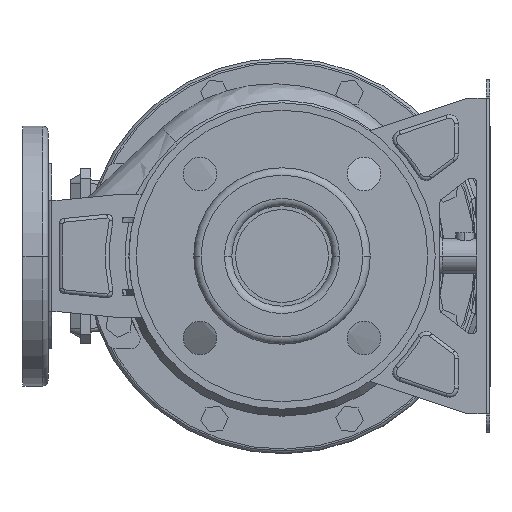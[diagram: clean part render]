
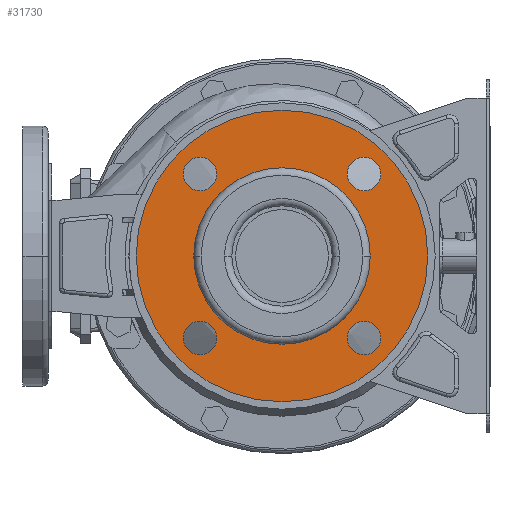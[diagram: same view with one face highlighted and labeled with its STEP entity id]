
A CAD part, front view. The second image highlights one B-rep face of the part: STEP entity #31730.
In plain terms, the highlighted planar face has unit normal (0, -1, 0) as drawn and (-1, 0, 0) by its records, which use the part's own axes.
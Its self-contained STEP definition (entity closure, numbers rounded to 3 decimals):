
#31063=CARTESIAN_POINT('',(12.,0.,0.));
#31064=DIRECTION('',(-1.,0.,0.));
#31065=DIRECTION('',(0.,1.,0.));
#31066=AXIS2_PLACEMENT_3D('',#31063,#31064,#31065);
#31071=CARTESIAN_POINT('',(12.,0.,0.));
#31072=DIRECTION('',(1.,0.,0.));
#31073=DIRECTION('',(0.,1.,0.));
#31074=AXIS2_PLACEMENT_3D('',#31071,#31072,#31073);
#31079=CARTESIAN_POINT('',(12.,-44.194,44.194));
#31080=DIRECTION('',(1.,0.,0.));
#31081=DIRECTION('',(0.,1.,0.));
#31082=AXIS2_PLACEMENT_3D('',#31079,#31080,#31081);
#31087=CARTESIAN_POINT('',(12.,-44.194,44.194));
#31088=DIRECTION('',(1.,0.,0.));
#31089=DIRECTION('',(0.,-1.,0.));
#31090=AXIS2_PLACEMENT_3D('',#31087,#31088,#31089);
#31095=CARTESIAN_POINT('',(12.,-44.194,-44.194));
#31096=DIRECTION('',(1.,0.,0.));
#31097=DIRECTION('',(0.,0.,1.));
#31098=AXIS2_PLACEMENT_3D('',#31095,#31096,#31097);
#31103=CARTESIAN_POINT('',(12.,-44.194,-44.194));
#31104=DIRECTION('',(1.,0.,0.));
#31105=DIRECTION('',(0.,0.,-1.));
#31106=AXIS2_PLACEMENT_3D('',#31103,#31104,#31105);
#31111=CARTESIAN_POINT('',(12.,44.194,-44.194));
#31112=DIRECTION('',(1.,0.,0.));
#31113=DIRECTION('',(0.,-1.,0.));
#31114=AXIS2_PLACEMENT_3D('',#31111,#31112,#31113);
#31119=CARTESIAN_POINT('',(12.,44.194,-44.194));
#31120=DIRECTION('',(1.,0.,0.));
#31121=DIRECTION('',(0.,1.,0.));
#31122=AXIS2_PLACEMENT_3D('',#31119,#31120,#31121);
#31127=CARTESIAN_POINT('',(12.,44.194,44.194));
#31128=DIRECTION('',(1.,0.,0.));
#31129=DIRECTION('',(0.,0.,-1.));
#31130=AXIS2_PLACEMENT_3D('',#31127,#31128,#31129);
#31135=CARTESIAN_POINT('',(12.,44.194,44.194));
#31136=DIRECTION('',(1.,0.,0.));
#31137=DIRECTION('',(0.,0.,1.));
#31138=AXIS2_PLACEMENT_3D('',#31135,#31136,#31137);
#31143=CARTESIAN_POINT('',(12.,0.,0.));
#31144=DIRECTION('',(1.,0.,0.));
#31145=DIRECTION('',(0.,1.,0.));
#31146=AXIS2_PLACEMENT_3D('',#31143,#31144,#31145);
#31165=CARTESIAN_POINT('',(12.,0.,0.));
#31166=DIRECTION('',(-1.,0.,0.));
#31167=DIRECTION('',(0.,1.,0.));
#31168=AXIS2_PLACEMENT_3D('',#31165,#31166,#31167);
#31330=CARTESIAN_POINT('',(12.,78.5,0.));
#31332=VERTEX_POINT('',#31330);
#31333=CARTESIAN_POINT('',(12.,47.5,0.));
#31335=VERTEX_POINT('',#31333);
#31362=CARTESIAN_POINT('',(12.,-78.5,0.));
#31364=VERTEX_POINT('',#31362);
#31365=CARTESIAN_POINT('',(12.,-47.5,0.));
#31367=VERTEX_POINT('',#31365);
#31377=CARTESIAN_POINT('',(12.,-35.194,44.194));
#31378=CARTESIAN_POINT('',(12.,-53.194,44.194));
#31379=VERTEX_POINT('',#31377);
#31380=VERTEX_POINT('',#31378);
#31385=CARTESIAN_POINT('',(12.,-44.194,-35.194));
#31386=CARTESIAN_POINT('',(12.,-44.194,-53.194));
#31387=VERTEX_POINT('',#31385);
#31388=VERTEX_POINT('',#31386);
#31393=CARTESIAN_POINT('',(12.,35.194,-44.194));
#31394=CARTESIAN_POINT('',(12.,53.194,-44.194));
#31395=VERTEX_POINT('',#31393);
#31396=VERTEX_POINT('',#31394);
#31401=CARTESIAN_POINT('',(12.,44.194,35.194));
#31402=CARTESIAN_POINT('',(12.,44.194,53.194));
#31403=VERTEX_POINT('',#31401);
#31404=VERTEX_POINT('',#31402);
#31691=CARTESIAN_POINT('',(12.,0.,0.));
#31692=DIRECTION('',(1.,0.,0.));
#31693=DIRECTION('',(0.,-1.,0.));
#31694=AXIS2_PLACEMENT_3D('',#31691,#31692,#31693);
#31695=PLANE('',#31694);
#31696=ORIENTED_EDGE('',*,*,#31684,.F.);
#31697=ORIENTED_EDGE('',*,*,#31673,.T.);
#31698=EDGE_LOOP('',(#31696,#31697));
#31699=FACE_OUTER_BOUND('',#31698,.F.);
#31701=ORIENTED_EDGE('',*,*,#31700,.F.);
#31703=ORIENTED_EDGE('',*,*,#31702,.T.);
#31704=EDGE_LOOP('',(#31701,#31703));
#31705=FACE_BOUND('',#31704,.F.);
#31707=ORIENTED_EDGE('',*,*,#31706,.F.);
#31709=ORIENTED_EDGE('',*,*,#31708,.F.);
#31710=EDGE_LOOP('',(#31707,#31709));
#31711=FACE_BOUND('',#31710,.F.);
#31713=ORIENTED_EDGE('',*,*,#31712,.F.);
#31715=ORIENTED_EDGE('',*,*,#31714,.F.);
#31716=EDGE_LOOP('',(#31713,#31715));
#31717=FACE_BOUND('',#31716,.F.);
#31719=ORIENTED_EDGE('',*,*,#31718,.F.);
#31721=ORIENTED_EDGE('',*,*,#31720,.F.);
#31722=EDGE_LOOP('',(#31719,#31721));
#31723=FACE_BOUND('',#31722,.F.);
#31725=ORIENTED_EDGE('',*,*,#31724,.F.);
#31727=ORIENTED_EDGE('',*,*,#31726,.F.);
#31728=EDGE_LOOP('',(#31725,#31727));
#31729=FACE_BOUND('',#31728,.F.);
#31067=CIRCLE('',#31066,78.5);
#31075=CIRCLE('',#31074,78.5);
#31083=CIRCLE('',#31082,9.);
#31091=CIRCLE('',#31090,9.);
#31099=CIRCLE('',#31098,9.);
#31107=CIRCLE('',#31106,9.);
#31115=CIRCLE('',#31114,9.);
#31123=CIRCLE('',#31122,9.);
#31131=CIRCLE('',#31130,9.);
#31139=CIRCLE('',#31138,9.);
#31147=CIRCLE('',#31146,47.5);
#31169=CIRCLE('',#31168,47.5);
#31673=EDGE_CURVE('',#31332,#31364,#31075,.T.);
#31684=EDGE_CURVE('',#31332,#31364,#31067,.T.);
#31700=EDGE_CURVE('',#31335,#31367,#31147,.T.);
#31702=EDGE_CURVE('',#31335,#31367,#31169,.T.);
#31706=EDGE_CURVE('',#31379,#31380,#31083,.T.);
#31708=EDGE_CURVE('',#31380,#31379,#31091,.T.);
#31712=EDGE_CURVE('',#31387,#31388,#31099,.T.);
#31714=EDGE_CURVE('',#31388,#31387,#31107,.T.);
#31718=EDGE_CURVE('',#31395,#31396,#31115,.T.);
#31720=EDGE_CURVE('',#31396,#31395,#31123,.T.);
#31724=EDGE_CURVE('',#31403,#31404,#31131,.T.);
#31726=EDGE_CURVE('',#31404,#31403,#31139,.T.);
#31730=ADVANCED_FACE('',(#31699,#31705,#31711,#31717,#31723,#31729),#31695,.F.);
